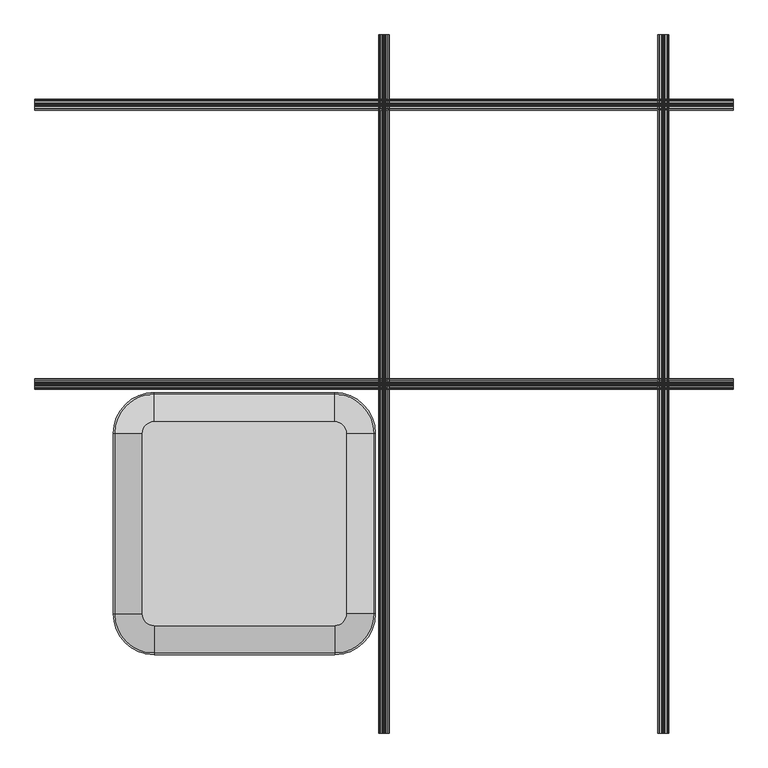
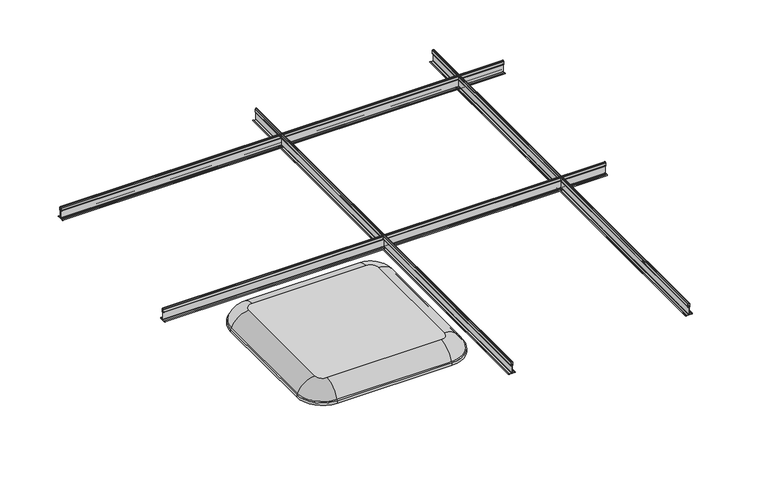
"""IFC4 building model written with IfcOpenShell, lengths in millimetres: proxy geometry, Maxxit_Concave-Ceiling_rev-01 : Maxxit_Concave-Ceiling_Solo."""

from ifc_helpers import new_model, si_unit, point, frame, frame_2d, origin, place, context, project, spatial, polyline, circle_curve, ellipse_curve, trimmed, segment, composite_curve, outline, extrude, source, transform, mapped, element, save
from ifc_brep_helpers import plane_surface, cylinder_surface, revolved_surface, advanced_brep


def generic_models_1cad4ad9(model_context):
    return source(origin(), model_context, "Body", "SolidModel", [
        advanced_brep(
        [(679.0117964, 653.4125, 44.45), (653.4125, 679.0117964, 44.45), (259.4, 679.0117964, 44.45), (233.8007036, 653.4125, 44.45), (233.8007036, 259.4, 44.45), (259.4, 233.8007036, 44.45), (653.4125, 233.8007036, 44.45), (679.0117964, 259.4, 44.45), (653.4125, 679.0117964, 34.925), (679.0117964, 653.4125, 34.925), (679.0117964, 259.4, 34.925), (653.4125, 233.8007036, 34.925), (259.4, 233.8007036, 34.925), (233.8007036, 259.4, 34.925), (233.8007036, 653.4125, 34.925), (259.4, 679.0117964, 34.925), (653.4125, 742.4125, -1.5875), (742.4125, 653.4125, -1.5875), (742.4125, 653.4125, -11.1125), (653.4125, 742.4125, -11.1125), (653.4125, 739.3934189, 0.6047619), (739.3934189, 653.4125, 0.6047619), (653.4125, 730.3361755, -2.3434524), (730.3361755, 653.4125, -2.3434524), (259.4, 742.4125, -11.1125), (259.4, 742.4125, -1.5875), (259.4, 739.3934189, 0.6047619), (259.4, 730.3361755, -2.3434524), (170.4, 653.4125, -11.1125), (170.4, 653.4125, -1.5875), (173.4190811, 653.4125, 0.6047619), (182.4763245, 653.4125, -2.3434524), (170.4, 259.4, -11.1125), (170.4, 259.4, -1.5875), (173.4190811, 259.4, 0.6047619), (182.4763245, 259.4, -2.3434524), (259.4, 170.4, -11.1125), (259.4, 170.4, -1.5875), (259.4, 173.4190811, 0.6047619), (259.4, 182.4763245, -2.3434524), (653.4125, 170.4, -11.1125), (653.4125, 170.4, -1.5875), (653.4125, 173.4190811, 0.6047619), (653.4125, 182.4763245, -2.3434524), (742.4125, 259.4, -11.1125), (742.4125, 259.4, -1.5875), (739.3934189, 259.4, 0.6047619), (730.3361755, 259.4, -2.3434524)],
        [
            (0, 1, circle_curve(frame((653.4125, 653.4125, 44.45), z_axis=(0.0, 0.0, 1.0), x_axis=(1.0, 0.0, 0.0)), 25.5992964)),
            (1, 2),
            (2, 3, circle_curve(frame((259.4, 653.4125, 44.45), z_axis=(0.0, 0.0, 1.0), x_axis=(0.0, 1.0, 0.0)), 25.5992964)),
            (3, 4),
            (4, 5, circle_curve(frame((259.4, 259.4, 44.45), z_axis=(0.0, 0.0, 1.0), x_axis=(-1.0, 0.0, 0.0)), 25.5992964)),
            (5, 6),
            (6, 7, circle_curve(frame((653.4125, 259.4, 44.45), z_axis=(0.0, 0.0, 1.0), x_axis=(0.0, -1.0, 0.0)), 25.5992964)),
            (7, 0),
            (8, 9, circle_curve(frame((653.4125, 653.4125, 34.925), z_axis=(0.0, 0.0, -1.0), x_axis=(1.0, 0.0, 0.0)), 25.5992964)),
            (9, 10),
            (10, 11, circle_curve(frame((653.4125, 259.4, 34.925), z_axis=(0.0, 0.0, -1.0), x_axis=(0.0, -1.0, 0.0)), 25.5992964)),
            (11, 12),
            (12, 13, circle_curve(frame((259.4, 259.4, 34.925), z_axis=(0.0, 0.0, -1.0), x_axis=(-1.0, 0.0, 0.0)), 25.5992964)),
            (13, 14),
            (14, 15, circle_curve(frame((259.4, 653.4125, 34.925), z_axis=(0.0, 0.0, -1.0), x_axis=(0.0, 1.0, 0.0)), 25.5992964)),
            (15, 8),
            (16, 17, circle_curve(frame((653.4125, 653.4125, -1.5875), z_axis=(0.0, 0.0, -1.0), x_axis=(1.0, 0.0, 0.0)), 89.0)),
            (17, 18),
            (18, 19, circle_curve(frame((653.4125, 653.4125, -11.1125), z_axis=(0.0, 0.0, 1.0), x_axis=(1.0, 0.0, 0.0)), 89.0)),
            (19, 16),
            (16, 20, circle_curve(frame((653.4125, 742.4125, 1.5875), z_axis=(-1.0, 0.0, 0.0), x_axis=(0.0, -1.0, 0.0)), 3.175)),
            (20, 21, circle_curve(frame((653.4125, 653.4125, 0.6047619), z_axis=(0.0, 0.0, -1.0), x_axis=(1.0, 0.0, 0.0)), 85.9809189)),
            (21, 17, circle_curve(frame((742.4125, 653.4125, 1.5875), z_axis=(0.0, -1.0, 0.0), x_axis=(-1.0, 0.0, 0.0)), 3.175)),
            (20, 1, circle_curve(frame((653.4125, 679.0117964, -19.05), z_axis=(1.0, 0.0, 0.0), x_axis=(0.0, -1.0, 0.0)), 63.5)),
            (0, 21, circle_curve(frame((679.0117964, 653.4125, -19.05), z_axis=(0.0, 1.0, 0.0), x_axis=(-1.0, 0.0, 0.0)), 63.5)),
            (22, 23, circle_curve(frame((653.4125, 653.4125, -2.3434524), z_axis=(0.0, 0.0, -1.0), x_axis=(1.0, 0.0, 0.0)), 76.9236755)),
            (23, 9, circle_curve(frame((679.0117964, 653.4125, -19.05), z_axis=(0.0, -1.0, 0.0), x_axis=(-1.0, 0.0, 0.0)), 53.975)),
            (8, 22, circle_curve(frame((653.4125, 679.0117964, -19.05), z_axis=(-1.0, 0.0, 0.0), x_axis=(0.0, -1.0, 0.0)), 53.975)),
            (18, 23, circle_curve(frame((742.4125, 653.4125, 1.5875), z_axis=(0.0, 1.0, 0.0), x_axis=(-1.0, 0.0, 0.0)), 12.7)),
            (22, 19, circle_curve(frame((653.4125, 742.4125, 1.5875), z_axis=(1.0, 0.0, 0.0), x_axis=(0.0, -1.0, 0.0)), 12.7)),
            (19, 24),
            (24, 25),
            (25, 16),
            (25, 26, circle_curve(frame((259.4, 742.4125, 1.5875), z_axis=(-1.0, 0.0, 0.0), x_axis=(0.0, -1.0, 0.0)), 3.175)),
            (26, 20),
            (26, 2, circle_curve(frame((259.4, 679.0117964, -19.05), z_axis=(1.0, 0.0, 0.0), x_axis=(0.0, -1.0, 0.0)), 63.5)),
            (15, 27, circle_curve(frame((259.4, 679.0117964, -19.05), z_axis=(-1.0, 0.0, 0.0), x_axis=(0.0, -1.0, 0.0)), 53.975)),
            (27, 22),
            (27, 24, circle_curve(frame((259.4, 742.4125, 1.5875), z_axis=(1.0, 0.0, 0.0), x_axis=(0.0, -1.0, 0.0)), 12.7)),
            (24, 28, circle_curve(frame((259.4, 653.4125, -11.1125), z_axis=(0.0, 0.0, 1.0), x_axis=(0.0, 1.0, 0.0)), 89.0)),
            (28, 29),
            (29, 25, circle_curve(frame((259.4, 653.4125, -1.5875), z_axis=(0.0, 0.0, -1.0), x_axis=(0.0, 1.0, 0.0)), 89.0)),
            (29, 30, circle_curve(frame((170.4, 653.4125, 1.5875), z_axis=(0.0, -1.0, 0.0), x_axis=(1.0, 0.0, 0.0)), 3.175)),
            (30, 26, circle_curve(frame((259.4, 653.4125, 0.6047619), z_axis=(0.0, 0.0, -1.0), x_axis=(0.0, 1.0, 0.0)), 85.9809189)),
            (30, 3, circle_curve(frame((233.8007036, 653.4125, -19.05), z_axis=(0.0, 1.0, 0.0), x_axis=(1.0, 0.0, 0.0)), 63.5)),
            (14, 31, circle_curve(frame((233.8007036, 653.4125, -19.05), z_axis=(0.0, -1.0, 0.0), x_axis=(1.0, 0.0, 0.0)), 53.975)),
            (31, 27, circle_curve(frame((259.4, 653.4125, -2.3434524), z_axis=(0.0, 0.0, -1.0), x_axis=(0.0, 1.0, 0.0)), 76.9236755)),
            (31, 28, circle_curve(frame((170.4, 653.4125, 1.5875), z_axis=(0.0, 1.0, 0.0), x_axis=(1.0, 0.0, 0.0)), 12.7)),
            (28, 32),
            (32, 33),
            (33, 29),
            (33, 34, circle_curve(frame((170.4, 259.4, 1.5875), z_axis=(0.0, -1.0, 0.0), x_axis=(1.0, 0.0, 0.0)), 3.175)),
            (34, 30),
            (34, 4, circle_curve(frame((233.8007036, 259.4, -19.05), z_axis=(0.0, 1.0, 0.0), x_axis=(1.0, 0.0, 0.0)), 63.5)),
            (13, 35, circle_curve(frame((233.8007036, 259.4, -19.05), z_axis=(0.0, -1.0, 0.0), x_axis=(1.0, 0.0, 0.0)), 53.975)),
            (35, 31),
            (35, 32, circle_curve(frame((170.4, 259.4, 1.5875), z_axis=(0.0, 1.0, 0.0), x_axis=(1.0, 0.0, 0.0)), 12.7)),
            (32, 36, circle_curve(frame((259.4, 259.4, -11.1125), z_axis=(0.0, 0.0, 1.0), x_axis=(-1.0, 0.0, 0.0)), 89.0)),
            (36, 37),
            (37, 33, circle_curve(frame((259.4, 259.4, -1.5875), z_axis=(0.0, 0.0, -1.0), x_axis=(-1.0, 0.0, 0.0)), 89.0)),
            (37, 38, circle_curve(frame((259.4, 170.4, 1.5875), z_axis=(1.0, 0.0, 0.0), x_axis=(0.0, 1.0, 0.0)), 3.175)),
            (38, 34, circle_curve(frame((259.4, 259.4, 0.6047619), z_axis=(0.0, 0.0, -1.0), x_axis=(-1.0, 0.0, 0.0)), 85.9809189)),
            (38, 5, circle_curve(frame((259.4, 233.8007036, -19.05), z_axis=(-1.0, 0.0, 0.0), x_axis=(0.0, 1.0, 0.0)), 63.5)),
            (12, 39, circle_curve(frame((259.4, 233.8007036, -19.05), z_axis=(1.0, 0.0, 0.0), x_axis=(0.0, 1.0, 0.0)), 53.975)),
            (39, 35, circle_curve(frame((259.4, 259.4, -2.3434524), z_axis=(0.0, 0.0, -1.0), x_axis=(-1.0, 0.0, 0.0)), 76.9236755)),
            (39, 36, circle_curve(frame((259.4, 170.4, 1.5875), z_axis=(-1.0, 0.0, 0.0), x_axis=(0.0, 1.0, 0.0)), 12.7)),
            (36, 40),
            (40, 41),
            (41, 37),
            (41, 42, circle_curve(frame((653.4125, 170.4, 1.5875), z_axis=(1.0, 0.0, 0.0), x_axis=(0.0, 1.0, 0.0)), 3.175)),
            (42, 38),
            (42, 6, circle_curve(frame((653.4125, 233.8007036, -19.05), z_axis=(-1.0, 0.0, 0.0), x_axis=(0.0, 1.0, 0.0)), 63.5)),
            (11, 43, circle_curve(frame((653.4125, 233.8007036, -19.05), z_axis=(1.0, 0.0, 0.0), x_axis=(0.0, 1.0, 0.0)), 53.975)),
            (43, 39),
            (43, 40, circle_curve(frame((653.4125, 170.4, 1.5875), z_axis=(-1.0, 0.0, 0.0), x_axis=(0.0, 1.0, 0.0)), 12.7)),
            (40, 44, circle_curve(frame((653.4125, 259.4, -11.1125), z_axis=(0.0, 0.0, 1.0), x_axis=(0.0, -1.0, 0.0)), 89.0)),
            (44, 45),
            (45, 41, circle_curve(frame((653.4125, 259.4, -1.5875), z_axis=(0.0, 0.0, -1.0), x_axis=(0.0, -1.0, 0.0)), 89.0)),
            (45, 46, circle_curve(frame((742.4125, 259.4, 1.5875), z_axis=(0.0, 1.0, 0.0), x_axis=(-1.0, 0.0, 0.0)), 3.175)),
            (46, 42, circle_curve(frame((653.4125, 259.4, 0.6047619), z_axis=(0.0, 0.0, -1.0), x_axis=(0.0, -1.0, 0.0)), 85.9809189)),
            (46, 7, circle_curve(frame((679.0117964, 259.4, -19.05), z_axis=(0.0, -1.0, 0.0), x_axis=(-1.0, 0.0, 0.0)), 63.5)),
            (10, 47, circle_curve(frame((679.0117964, 259.4, -19.05), z_axis=(0.0, 1.0, 0.0), x_axis=(-1.0, 0.0, 0.0)), 53.975)),
            (47, 43, circle_curve(frame((653.4125, 259.4, -2.3434524), z_axis=(0.0, 0.0, -1.0), x_axis=(0.0, -1.0, 0.0)), 76.9236755)),
            (47, 44, circle_curve(frame((742.4125, 259.4, 1.5875), z_axis=(0.0, -1.0, 0.0), x_axis=(-1.0, 0.0, 0.0)), 12.7)),
            (17, 45),
            (44, 18),
            (21, 46),
            (23, 47),
        ],
        [
            plane_surface(frame((250.0573389, 259.4, 44.45), z_axis=(0.0, 0.0, 1.0), x_axis=(0.0, -1.0, 0.0))),
            plane_surface(frame((250.0573389, 259.4, 34.925), z_axis=(0.0, 0.0, -1.0), x_axis=(0.0, 1.0, 0.0))),
            cylinder_surface(frame((653.4125, 653.4125, 25.4), z_axis=(0.0, 0.0, 1.0), x_axis=(1.0, 0.0, 0.0)), 89.0),
            revolved_surface(trimmed(ellipse_curve(frame((742.4125, 653.4125, 1.5875), z_axis=(0.0, 1.0, 0.0), x_axis=(-1.0, 0.0, 0.0)), 3.175, 3.175), [point((742.4125, 653.4125, -1.5875))], [point((739.3934189, 653.4125, 0.6047619))], True, "CARTESIAN"), (653.4125, 653.4125, 25.4), (0.0, 0.0, 1.0)),
            revolved_surface(trimmed(ellipse_curve(frame((679.0117964, 653.4125, -19.05), z_axis=(0.0, -1.0, 0.0), x_axis=(-1.0, 0.0, 0.0)), 63.5, 63.5), [point((739.3934189, 653.4125, 0.6047619))], [point((679.0117964, 653.4125, 44.45))], True, "CARTESIAN"), (653.4125, 653.4125, 25.4), (0.0, 0.0, 1.0)),
            revolved_surface(trimmed(ellipse_curve(frame((679.0117964, 653.4125, -19.05), z_axis=(0.0, 1.0, 0.0), x_axis=(-1.0, 0.0, 0.0)), 53.975, 53.975), [point((679.0117964, 653.4125, 34.925))], [point((730.3361755, 653.4125, -2.3434524))], True, "CARTESIAN"), (653.4125, 653.4125, 25.4), (0.0, 0.0, 1.0)),
            revolved_surface(trimmed(ellipse_curve(frame((742.4125, 653.4125, 1.5875), z_axis=(0.0, -1.0, 0.0), x_axis=(-1.0, 0.0, 0.0)), 12.7, 12.7), [point((730.3361755, 653.4125, -2.3434524))], [point((742.4125, 653.4125, -11.1125))], True, "CARTESIAN"), (653.4125, 653.4125, 25.4), (0.0, 0.0, 1.0)),
            plane_surface(frame((653.4125, 742.4125, -11.1125), z_axis=(0.0, 1.0, 0.0), x_axis=(-1.0, 0.0, 0.0))),
            revolved_surface(polyline([(259.4, 739.2375000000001, 1.5875), (653.4125, 739.2375000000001, 1.5875)]), (653.4125, 742.4125, 1.5875), (-1.0, 0.0, 0.0)),
            cylinder_surface(frame((653.4125, 679.0117964, -19.05), z_axis=(1.0, 0.0, 0.0), x_axis=(0.0, -1.0, 0.0)), 63.5),
            revolved_surface(polyline([(259.4, 625.0367964, -19.05), (653.4125, 625.0367964, -19.05)]), (653.4125, 679.0117964, -19.05), (-1.0, 0.0, 0.0)),
            cylinder_surface(frame((653.4125, 742.4125, 1.5875), z_axis=(1.0, 0.0, 0.0), x_axis=(0.0, -1.0, 0.0)), 12.7),
            cylinder_surface(frame((259.4, 653.4125, 25.4), z_axis=(0.0, 0.0, 1.0), x_axis=(0.0, 1.0, 0.0)), 89.0),
            revolved_surface(trimmed(ellipse_curve(frame((259.4, 742.4125, 1.5875), z_axis=(-1.0, 0.0, 0.0), x_axis=(0.0, -1.0, 0.0)), 3.175, 3.175), [point((259.4, 742.4125, -1.5875))], [point((259.4, 739.3934189, 0.6047619))], True, "CARTESIAN"), (259.4, 653.4125, 25.4), (0.0, 0.0, 1.0)),
            revolved_surface(trimmed(ellipse_curve(frame((259.4, 679.0117964, -19.05), z_axis=(1.0, 0.0, 0.0), x_axis=(0.0, -1.0, 0.0)), 63.5, 63.5), [point((259.4, 739.3934189, 0.6047619))], [point((259.4, 679.0117964, 44.45))], True, "CARTESIAN"), (259.4, 653.4125, 25.4), (0.0, 0.0, 1.0)),
            revolved_surface(trimmed(ellipse_curve(frame((259.4, 679.0117964, -19.05), z_axis=(-1.0, 0.0, 0.0), x_axis=(0.0, -1.0, 0.0)), 53.975, 53.975), [point((259.4, 679.0117964, 34.925))], [point((259.4, 730.3361755, -2.3434524))], True, "CARTESIAN"), (259.4, 653.4125, 25.4), (0.0, 0.0, 1.0)),
            revolved_surface(trimmed(ellipse_curve(frame((259.4, 742.4125, 1.5875), z_axis=(1.0, 0.0, 0.0), x_axis=(0.0, -1.0, 0.0)), 12.7, 12.7), [point((259.4, 730.3361755, -2.3434524))], [point((259.4, 742.4125, -11.1125))], True, "CARTESIAN"), (259.4, 653.4125, 25.4), (0.0, 0.0, 1.0)),
            plane_surface(frame((170.4, 653.4125, -11.1125), z_axis=(-1.0, 0.0, 0.0), x_axis=(0.0, -1.0, 0.0))),
            revolved_surface(polyline([(173.57500000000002, 259.4, 1.5875), (173.57500000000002, 653.4125, 1.5875)]), (170.4, 653.4125, 1.5875), (0.0, -1.0, 0.0)),
            cylinder_surface(frame((233.8007036, 653.4125, -19.05), z_axis=(0.0, 1.0, 0.0), x_axis=(1.0, 0.0, 0.0)), 63.5),
            revolved_surface(polyline([(287.7757036, 259.4, -19.05), (287.7757036, 653.4125, -19.05)]), (233.8007036, 653.4125, -19.05), (0.0, -1.0, 0.0)),
            cylinder_surface(frame((170.4, 653.4125, 1.5875), z_axis=(0.0, 1.0, 0.0), x_axis=(1.0, 0.0, 0.0)), 12.7),
            cylinder_surface(frame((259.4, 259.4, 25.4), z_axis=(0.0, 0.0, 1.0), x_axis=(-1.0, 0.0, 0.0)), 89.0),
            revolved_surface(trimmed(ellipse_curve(frame((170.4, 259.4, 1.5875), z_axis=(0.0, -1.0, 0.0), x_axis=(1.0, 0.0, 0.0)), 3.175, 3.175), [point((170.4, 259.4, -1.5875))], [point((173.4190811, 259.4, 0.6047619))], True, "CARTESIAN"), (259.4, 259.4, 25.4), (0.0, 0.0, 1.0)),
            revolved_surface(trimmed(ellipse_curve(frame((233.8007036, 259.4, -19.05), z_axis=(0.0, 1.0, 0.0), x_axis=(1.0, 0.0, 0.0)), 63.5, 63.5), [point((173.4190811, 259.4, 0.6047619))], [point((233.8007036, 259.4, 44.45))], True, "CARTESIAN"), (259.4, 259.4, 25.4), (0.0, 0.0, 1.0)),
            revolved_surface(trimmed(ellipse_curve(frame((233.8007036, 259.4, -19.05), z_axis=(0.0, -1.0, 0.0), x_axis=(1.0, 0.0, 0.0)), 53.975, 53.975), [point((233.8007036, 259.4, 34.925))], [point((182.4763245, 259.4, -2.3434524))], True, "CARTESIAN"), (259.4, 259.4, 25.4), (0.0, 0.0, 1.0)),
            revolved_surface(trimmed(ellipse_curve(frame((170.4, 259.4, 1.5875), z_axis=(0.0, 1.0, 0.0), x_axis=(1.0, 0.0, 0.0)), 12.7, 12.7), [point((182.4763245, 259.4, -2.3434524))], [point((170.4, 259.4, -11.1125))], True, "CARTESIAN"), (259.4, 259.4, 25.4), (0.0, 0.0, 1.0)),
            plane_surface(frame((259.4, 170.4, -11.1125), z_axis=(0.0, -1.0, 0.0), x_axis=(1.0, 0.0, 0.0))),
            revolved_surface(polyline([(653.4125, 173.57500000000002, 1.5875), (259.4, 173.57500000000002, 1.5875)]), (259.4, 170.4, 1.5875), (1.0, 0.0, 0.0)),
            cylinder_surface(frame((259.4, 233.8007036, -19.05), z_axis=(-1.0, 0.0, 0.0), x_axis=(0.0, 1.0, 0.0)), 63.5),
            revolved_surface(polyline([(653.4125, 287.7757036, -19.05), (259.4, 287.7757036, -19.05)]), (259.4, 233.8007036, -19.05), (1.0, 0.0, 0.0)),
            cylinder_surface(frame((259.4, 170.4, 1.5875), z_axis=(-1.0, 0.0, 0.0), x_axis=(0.0, 1.0, 0.0)), 12.7),
            cylinder_surface(frame((653.4125, 259.4, 25.4), z_axis=(0.0, 0.0, 1.0), x_axis=(0.0, -1.0, 0.0)), 89.0),
            revolved_surface(trimmed(ellipse_curve(frame((653.4125, 170.4, 1.5875), z_axis=(1.0, 0.0, 0.0), x_axis=(0.0, 1.0, 0.0)), 3.175, 3.175), [point((653.4125, 170.4, -1.5875))], [point((653.4125, 173.4190811, 0.6047619))], True, "CARTESIAN"), (653.4125, 259.4, 25.4), (0.0, 0.0, 1.0)),
            revolved_surface(trimmed(ellipse_curve(frame((653.4125, 233.8007036, -19.05), z_axis=(-1.0, 0.0, 0.0), x_axis=(0.0, 1.0, 0.0)), 63.5, 63.5), [point((653.4125, 173.4190811, 0.6047619))], [point((653.4125, 233.8007036, 44.45))], True, "CARTESIAN"), (653.4125, 259.4, 25.4), (0.0, 0.0, 1.0)),
            revolved_surface(trimmed(ellipse_curve(frame((653.4125, 233.8007036, -19.05), z_axis=(1.0, 0.0, 0.0), x_axis=(0.0, 1.0, 0.0)), 53.975, 53.975), [point((653.4125, 233.8007036, 34.925))], [point((653.4125, 182.4763245, -2.3434524))], True, "CARTESIAN"), (653.4125, 259.4, 25.4), (0.0, 0.0, 1.0)),
            revolved_surface(trimmed(ellipse_curve(frame((653.4125, 170.4, 1.5875), z_axis=(-1.0, 0.0, 0.0), x_axis=(0.0, 1.0, 0.0)), 12.7, 12.7), [point((653.4125, 182.4763245, -2.3434524))], [point((653.4125, 170.4, -11.1125))], True, "CARTESIAN"), (653.4125, 259.4, 25.4), (0.0, 0.0, 1.0)),
            plane_surface(frame((742.4125, 259.4, -11.1125), z_axis=(1.0, 0.0, 0.0), x_axis=(0.0, 1.0, 0.0))),
            revolved_surface(polyline([(739.2375000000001, 653.4125, 1.5875), (739.2375000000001, 259.4, 1.5875)]), (742.4125, 259.4, 1.5875), (0.0, 1.0, 0.0)),
            cylinder_surface(frame((679.0117964, 259.4, -19.05), z_axis=(0.0, -1.0, 0.0), x_axis=(-1.0, 0.0, 0.0)), 63.5),
            revolved_surface(polyline([(625.0367964, 653.4125, -19.05), (625.0367964, 259.4, -19.05)]), (679.0117964, 259.4, -19.05), (0.0, 1.0, 0.0)),
            cylinder_surface(frame((742.4125, 259.4, 1.5875), z_axis=(0.0, -1.0, 0.0), x_axis=(-1.0, 0.0, 0.0)), 12.7),
        ],
        [
            (0, [[1, 2, 3, 4, 5, 6, 7, 8]]),
            (1, [[9, 10, 11, 12, 13, 14, 15, 16]]),
            (2, [[17, 18, 19, 20]]),
            (3, [[-17, 21, 22, 23]]),
            (4, [[-22, 24, -1, 25]]),
            (5, [[26, 27, -9, 28]]),
            (6, [[-19, 29, -26, 30]]),
            (7, [[-20, 31, 32, 33]]),
            (8, [[-21, -33, 34, 35]]),
            (9, [[-24, -35, 36, -2]]),
            (10, [[-28, -16, 37, 38]]),
            (11, [[-30, -38, 39, -31]]),
            (12, [[-32, 40, 41, 42]]),
            (13, [[-34, -42, 43, 44]]),
            (14, [[-36, -44, 45, -3]]),
            (15, [[-37, -15, 46, 47]]),
            (16, [[-39, -47, 48, -40]]),
            (17, [[-41, 49, 50, 51]]),
            (18, [[-43, -51, 52, 53]]),
            (19, [[-45, -53, 54, -4]]),
            (20, [[-46, -14, 55, 56]]),
            (21, [[-48, -56, 57, -49]]),
            (22, [[-50, 58, 59, 60]]),
            (23, [[-52, -60, 61, 62]]),
            (24, [[-54, -62, 63, -5]]),
            (25, [[-55, -13, 64, 65]]),
            (26, [[-57, -65, 66, -58]]),
            (27, [[-59, 67, 68, 69]]),
            (28, [[-61, -69, 70, 71]]),
            (29, [[-63, -71, 72, -6]]),
            (30, [[-64, -12, 73, 74]]),
            (31, [[-66, -74, 75, -67]]),
            (32, [[-68, 76, 77, 78]]),
            (33, [[-70, -78, 79, 80]]),
            (34, [[-72, -80, 81, -7]]),
            (35, [[-73, -11, 82, 83]]),
            (36, [[-75, -83, 84, -76]]),
            (37, [[-18, 85, -77, 86]]),
            (38, [[-23, 87, -79, -85]]),
            (39, [[-25, -8, -81, -87]]),
            (40, [[-27, 88, -82, -10]]),
            (41, [[-29, -86, -84, -88]]),
        ],
    ),
        extrude(outline(composite_curve([segment(polyline([(26.3453115, 1371.9521622), (26.0364605, 1380.3221882), (27.0486923, 1380.3221882), (27.0486923, 1372.5587813)]), True, "CONTINUOUS"), segment(trimmed(circle_curve(frame_2d((28.0053766, 1372.5587813)), 0.9566843), [point((27.0486923, 1372.5587813))], [point((28.0053766, 1371.602097))], True, "CARTESIAN"), True, "CONTINUOUS"), segment(polyline([(28.0053766, 1371.602097), (53.7729211, 1371.602097)]), True, "CONTINUOUS"), segment(trimmed(circle_curve(frame_2d((53.6130577, 1372.3289444)), 0.74422), [point((53.7729211, 1371.602097))], [point((54.356, 1372.2853536))], True, "CARTESIAN"), True, "CONTINUOUS"), segment(trimmed(circle_curve(frame_2d((58.371716, 1372.5444703)), 4.0240672), [point((54.356, 1372.2853536))], [point((54.4068054, 1373.2319295))], False, "CARTESIAN"), True, "CONTINUOUS"), segment(trimmed(circle_curve(frame_2d((55.7865501, 1372.874174)), 1.4253717), [point((54.4068054, 1373.2319295))], [point((55.7865501, 1374.2995457))], False, "CARTESIAN"), True, "CONTINUOUS"), segment(polyline([(55.7865501, 1374.2995457), (64.7585942, 1374.2995457)]), True, "CONTINUOUS"), segment(trimmed(circle_curve(frame_2d((64.8150812, 1372.2494608)), 2.0508629), [point((64.7585942, 1374.2995457))], [point((66.2652603, 1373.6996399))], False, "CARTESIAN"), True, "CONTINUOUS"), segment(polyline([(66.2652603, 1373.6996399), (68.1708325, 1371.7940677)]), True, "CONTINUOUS"), segment(trimmed(circle_curve(frame_2d((67.1830148, 1370.80625)), 1.3969852), [point((68.1708325, 1371.7940677))], [point((68.1708325, 1369.8184323))], False, "CARTESIAN"), True, "CONTINUOUS"), segment(polyline([(68.1708325, 1369.8184323), (66.2652603, 1367.9128601)]), True, "CONTINUOUS"), segment(trimmed(circle_curve(frame_2d((64.8150812, 1369.3630392)), 2.0508629), [point((66.2652603, 1367.9128601))], [point((64.7585942, 1367.3129543))], False, "CARTESIAN"), True, "CONTINUOUS"), segment(polyline([(64.7585942, 1367.3129543), (55.7865501, 1367.3129543)]), True, "CONTINUOUS"), segment(trimmed(circle_curve(frame_2d((55.7865501, 1368.738326)), 1.4253717), [point((55.7865501, 1367.3129543))], [point((54.4068054, 1368.3805705))], False, "CARTESIAN"), True, "CONTINUOUS"), segment(trimmed(circle_curve(frame_2d((58.371716, 1369.0680297)), 4.0240672), [point((54.4068054, 1368.3805705))], [point((54.356, 1369.3271464))], False, "CARTESIAN"), True, "CONTINUOUS"), segment(trimmed(circle_curve(frame_2d((53.6130577, 1369.2835556)), 0.74422), [point((54.356, 1369.3271464))], [point((53.7436541, 1370.0162274))], True, "CARTESIAN"), True, "CONTINUOUS"), segment(polyline([(53.7436541, 1370.0162274), (28.0053766, 1370.0162274)]), True, "CONTINUOUS"), segment(trimmed(circle_curve(frame_2d((28.0053766, 1369.0595431)), 0.9566843), [point((28.0053766, 1370.0162274))], [point((27.0486923, 1369.0595431))], True, "CARTESIAN"), True, "CONTINUOUS"), segment(polyline([(27.0486923, 1369.0595431), (27.0486923, 1360.4632271), (26.0290179, 1360.4632271), (26.3453115, 1369.6661622)]), True, "CONTINUOUS"), segment(trimmed(circle_curve(frame_2d((27.4883115, 1369.6661622)), 1.143), [point((26.3453115, 1369.6661622))], [point((27.4883115, 1370.8091622))], False, "CARTESIAN"), True, "CONTINUOUS"), segment(trimmed(circle_curve(frame_2d((27.4883115, 1371.9521622)), 1.143), [point((27.4883115, 1370.8091622))], [point((26.3453115, 1371.9521622))], False, "CARTESIAN"), True, "CONTINUOUS")], self_intersect=False), holes=[composite_curve([segment(trimmed(circle_curve(frame_2d((54.058724, 1369.7366423)), 1.0922), [point((54.2797221, 1370.80625))], [point((55.150924, 1369.7366423))], False, "CARTESIAN"), True, "CONTINUOUS"), segment(polyline([(55.150924, 1369.7366423), (55.150924, 1368.7462215)]), True, "CONTINUOUS"), segment(trimmed(circle_curve(frame_2d((55.7859245, 1368.7462215)), 0.6350005), [point((55.150924, 1368.7462215))], [point((55.7859245, 1368.111221))], True, "CARTESIAN"), True, "CONTINUOUS"), segment(polyline([(55.7859245, 1368.111221), (64.7585942, 1368.111221)]), True, "CONTINUOUS"), segment(trimmed(circle_curve(frame_2d((64.7240599, 1369.6140641)), 1.5032399), [point((64.7585942, 1368.111221))], [point((65.7039943, 1368.4741261))], True, "CARTESIAN"), True, "CONTINUOUS"), segment(polyline([(65.7039943, 1368.4741261), (67.6095665, 1370.3796983)]), True, "CONTINUOUS"), segment(trimmed(circle_curve(frame_2d((67.1830148, 1370.80625)), 0.6032352), [point((67.6095665, 1370.3796983))], [point((67.6095665, 1371.2328017))], True, "CARTESIAN"), True, "CONTINUOUS"), segment(polyline([(67.6095665, 1371.2328017), (65.7039943, 1373.1383739)]), True, "CONTINUOUS"), segment(trimmed(circle_curve(frame_2d((64.7240599, 1371.9984359)), 1.5032399), [point((65.7039943, 1373.1383739))], [point((64.7585942, 1373.501279))], True, "CARTESIAN"), True, "CONTINUOUS"), segment(polyline([(64.7585942, 1373.501279), (55.7859245, 1373.501279)]), True, "CONTINUOUS"), segment(trimmed(circle_curve(frame_2d((55.7859245, 1372.8662785)), 0.6350005), [point((55.7859245, 1373.501279))], [point((55.150924, 1372.8662785))], True, "CARTESIAN"), True, "CONTINUOUS"), segment(polyline([(55.150924, 1372.8662785), (55.150924, 1371.8758577)]), True, "CONTINUOUS"), segment(trimmed(circle_curve(frame_2d((54.058724, 1371.8758577)), 1.0922), [point((55.150924, 1371.8758577))], [point((54.2797221, 1370.80625))], False, "CARTESIAN"), True, "CONTINUOUS")], self_intersect=False)]), frame((0.0, -0.79375, 0.0), z_axis=(0.0, 1.0, 0.0), x_axis=(0.0, 0.0, 1.0)), (0.0, 0.0, 1.0), 1524.0),
        extrude(outline(composite_curve([segment(trimmed(circle_curve(frame_2d((26.8823557, 1381.2419885)), 1.4823557), [point((25.4, 1381.2419885))], [point((28.3175237, 1380.8709475))], False, "CARTESIAN"), True, "CONTINUOUS"), segment(polyline([(28.3175237, 1380.8709475), (27.887022, 1379.3447705), (27.123083, 1379.5602613), (27.550773, 1381.0764703)]), True, "CONTINUOUS"), segment(trimmed(circle_curve(frame_2d((26.8823557, 1381.2419885)), 0.6886057), [point((27.550773, 1381.0764703))], [point((26.19375, 1381.2419885))], True, "CARTESIAN"), True, "CONTINUOUS"), segment(polyline([(26.19375, 1381.2419885), (26.19375, 1360.3705115)]), True, "CONTINUOUS"), segment(trimmed(circle_curve(frame_2d((26.8823557, 1360.3705115)), 0.6886057), [point((26.19375, 1360.3705115))], [point((27.550773, 1360.5360297))], True, "CARTESIAN"), True, "CONTINUOUS"), segment(polyline([(27.550773, 1360.5360297), (27.123083, 1362.0522387), (27.887022, 1362.2677295), (28.3175237, 1360.7415525)]), True, "CONTINUOUS"), segment(trimmed(circle_curve(frame_2d((26.8823557, 1360.3705115)), 1.4823557), [point((28.3175237, 1360.7415525))], [point((25.4, 1360.3705115))], False, "CARTESIAN"), True, "CONTINUOUS"), segment(polyline([(25.4, 1360.3705115), (25.4, 1381.2419885)]), True, "CONTINUOUS")], self_intersect=False)), frame((0.0, -0.79375, 0.0), z_axis=(0.0, 1.0, 0.0), x_axis=(0.0, 0.0, 1.0)), (0.0, 0.0, 1.0), 1524.0),
        extrude(outline(composite_curve([segment(trimmed(circle_curve(frame_2d((1371.9521622, 27.4883115)), 1.143), [point((1371.9521622, 26.3453115))], [point((1370.8091622, 27.4883115))], False, "CARTESIAN"), True, "CONTINUOUS"), segment(trimmed(circle_curve(frame_2d((1369.6661622, 27.4883115)), 1.143), [point((1370.8091622, 27.4883115))], [point((1369.6661622, 26.3453115))], False, "CARTESIAN"), True, "CONTINUOUS"), segment(polyline([(1369.6661622, 26.3453115), (1360.4632271, 26.0290179), (1360.4632271, 27.0486923), (1369.0595431, 27.0486923)]), True, "CONTINUOUS"), segment(trimmed(circle_curve(frame_2d((1369.0595431, 28.0053766)), 0.9566843), [point((1369.0595431, 27.0486923))], [point((1370.0162274, 28.0053766))], True, "CARTESIAN"), True, "CONTINUOUS"), segment(polyline([(1370.0162274, 28.0053766), (1370.0162274, 53.7436541)]), True, "CONTINUOUS"), segment(trimmed(circle_curve(frame_2d((1369.2835556, 53.6130577)), 0.74422), [point((1370.0162274, 53.7436541))], [point((1369.3271464, 54.356))], True, "CARTESIAN"), True, "CONTINUOUS"), segment(trimmed(circle_curve(frame_2d((1369.0680297, 58.371716)), 4.0240672), [point((1369.3271464, 54.356))], [point((1368.3805705, 54.4068054))], False, "CARTESIAN"), True, "CONTINUOUS"), segment(trimmed(circle_curve(frame_2d((1368.738326, 55.7865501)), 1.4253717), [point((1368.3805705, 54.4068054))], [point((1367.3129543, 55.7865501))], False, "CARTESIAN"), True, "CONTINUOUS"), segment(polyline([(1367.3129543, 55.7865501), (1367.3129543, 64.7585942)]), True, "CONTINUOUS"), segment(trimmed(circle_curve(frame_2d((1369.3630392, 64.8150812)), 2.0508629), [point((1367.3129543, 64.7585942))], [point((1367.9128601, 66.2652603))], False, "CARTESIAN"), True, "CONTINUOUS"), segment(polyline([(1367.9128601, 66.2652603), (1369.8184323, 68.1708325)]), True, "CONTINUOUS"), segment(trimmed(circle_curve(frame_2d((1370.80625, 67.1830148)), 1.3969852), [point((1369.8184323, 68.1708325))], [point((1371.7940677, 68.1708325))], False, "CARTESIAN"), True, "CONTINUOUS"), segment(polyline([(1371.7940677, 68.1708325), (1373.6996399, 66.2652603)]), True, "CONTINUOUS"), segment(trimmed(circle_curve(frame_2d((1372.2494608, 64.8150812)), 2.0508629), [point((1373.6996399, 66.2652603))], [point((1374.2995457, 64.7585942))], False, "CARTESIAN"), True, "CONTINUOUS"), segment(polyline([(1374.2995457, 64.7585942), (1374.2995457, 55.7865501)]), True, "CONTINUOUS"), segment(trimmed(circle_curve(frame_2d((1372.874174, 55.7865501)), 1.4253717), [point((1374.2995457, 55.7865501))], [point((1373.2319295, 54.4068054))], False, "CARTESIAN"), True, "CONTINUOUS"), segment(trimmed(circle_curve(frame_2d((1372.5444703, 58.371716)), 4.0240672), [point((1373.2319295, 54.4068054))], [point((1372.2853536, 54.356))], False, "CARTESIAN"), True, "CONTINUOUS"), segment(trimmed(circle_curve(frame_2d((1372.3289444, 53.6130577)), 0.74422), [point((1372.2853536, 54.356))], [point((1371.602097, 53.7729211))], True, "CARTESIAN"), True, "CONTINUOUS"), segment(polyline([(1371.602097, 53.7729211), (1371.602097, 28.0053766)]), True, "CONTINUOUS"), segment(trimmed(circle_curve(frame_2d((1372.5587813, 28.0053766)), 0.9566843), [point((1371.602097, 28.0053766))], [point((1372.5587813, 27.0486923))], True, "CARTESIAN"), True, "CONTINUOUS"), segment(polyline([(1372.5587813, 27.0486923), (1380.3221882, 27.0486923), (1380.3221882, 26.0364605), (1371.9521622, 26.3453115)]), True, "CONTINUOUS")], self_intersect=False), holes=[composite_curve([segment(trimmed(circle_curve(frame_2d((1371.8758577, 54.058724)), 1.0922), [point((1370.80625, 54.2797221))], [point((1371.8758577, 55.150924))], False, "CARTESIAN"), True, "CONTINUOUS"), segment(polyline([(1371.8758577, 55.150924), (1372.8662785, 55.150924)]), True, "CONTINUOUS"), segment(trimmed(circle_curve(frame_2d((1372.8662785, 55.7859245)), 0.6350005), [point((1372.8662785, 55.150924))], [point((1373.501279, 55.7859245))], True, "CARTESIAN"), True, "CONTINUOUS"), segment(polyline([(1373.501279, 55.7859245), (1373.501279, 64.7585942)]), True, "CONTINUOUS"), segment(trimmed(circle_curve(frame_2d((1371.9984359, 64.7240599)), 1.5032399), [point((1373.501279, 64.7585942))], [point((1373.1383739, 65.7039943))], True, "CARTESIAN"), True, "CONTINUOUS"), segment(polyline([(1373.1383739, 65.7039943), (1371.2328017, 67.6095665)]), True, "CONTINUOUS"), segment(trimmed(circle_curve(frame_2d((1370.80625, 67.1830148)), 0.6032352), [point((1371.2328017, 67.6095665))], [point((1370.3796983, 67.6095665))], True, "CARTESIAN"), True, "CONTINUOUS"), segment(polyline([(1370.3796983, 67.6095665), (1368.4741261, 65.7039943)]), True, "CONTINUOUS"), segment(trimmed(circle_curve(frame_2d((1369.6140641, 64.7240599)), 1.5032399), [point((1368.4741261, 65.7039943))], [point((1368.111221, 64.7585942))], True, "CARTESIAN"), True, "CONTINUOUS"), segment(polyline([(1368.111221, 64.7585942), (1368.111221, 55.7859245)]), True, "CONTINUOUS"), segment(trimmed(circle_curve(frame_2d((1368.7462215, 55.7859245)), 0.6350005), [point((1368.111221, 55.7859245))], [point((1368.7462215, 55.150924))], True, "CARTESIAN"), True, "CONTINUOUS"), segment(polyline([(1368.7462215, 55.150924), (1369.7366423, 55.150924)]), True, "CONTINUOUS"), segment(trimmed(circle_curve(frame_2d((1369.7366423, 54.058724)), 1.0922), [point((1369.7366423, 55.150924))], [point((1370.80625, 54.2797221))], False, "CARTESIAN"), True, "CONTINUOUS")], self_intersect=False)]), frame((-0.79375, 0.0, 0.0), z_axis=(1.0, 0.0, 0.0), x_axis=(0.0, 1.0, 0.0)), (0.0, 0.0, 1.0), 1524.0),
        extrude(outline(composite_curve([segment(polyline([(1381.2419885, 25.4), (1360.3705115, 25.4)]), True, "CONTINUOUS"), segment(trimmed(circle_curve(frame_2d((1360.3705115, 26.8823557)), 1.4823557), [point((1360.3705115, 25.4))], [point((1360.7415525, 28.3175237))], False, "CARTESIAN"), True, "CONTINUOUS"), segment(polyline([(1360.7415525, 28.3175237), (1362.2677295, 27.887022), (1362.0522387, 27.123083), (1360.5360297, 27.550773)]), True, "CONTINUOUS"), segment(trimmed(circle_curve(frame_2d((1360.3705115, 26.8823557)), 0.6886057), [point((1360.5360297, 27.550773))], [point((1360.3705115, 26.19375))], True, "CARTESIAN"), True, "CONTINUOUS"), segment(polyline([(1360.3705115, 26.19375), (1381.2419885, 26.19375)]), True, "CONTINUOUS"), segment(trimmed(circle_curve(frame_2d((1381.2419885, 26.8823557)), 0.6886057), [point((1381.2419885, 26.19375))], [point((1381.0764703, 27.550773))], True, "CARTESIAN"), True, "CONTINUOUS"), segment(polyline([(1381.0764703, 27.550773), (1379.5602613, 27.123083), (1379.3447705, 27.887022), (1380.8709475, 28.3175237)]), True, "CONTINUOUS"), segment(trimmed(circle_curve(frame_2d((1381.2419885, 26.8823557)), 1.4823557), [point((1380.8709475, 28.3175237))], [point((1381.2419885, 25.4))], False, "CARTESIAN"), True, "CONTINUOUS")], self_intersect=False)), frame((-0.79375, 0.0, 0.0), z_axis=(1.0, 0.0, 0.0), x_axis=(0.0, 1.0, 0.0)), (0.0, 0.0, 1.0), 1524.0),
        extrude(outline(composite_curve([segment(polyline([(26.3453115, 762.3521622), (26.0364605, 770.7221882), (27.0486923, 770.7221882), (27.0486923, 762.9587813)]), True, "CONTINUOUS"), segment(trimmed(circle_curve(frame_2d((28.0053766, 762.9587813)), 0.9566843), [point((27.0486923, 762.9587813))], [point((28.0053766, 762.002097))], True, "CARTESIAN"), True, "CONTINUOUS"), segment(polyline([(28.0053766, 762.002097), (53.7729211, 762.002097)]), True, "CONTINUOUS"), segment(trimmed(circle_curve(frame_2d((53.6130577, 762.7289444)), 0.74422), [point((53.7729211, 762.002097))], [point((54.356, 762.6853536))], True, "CARTESIAN"), True, "CONTINUOUS"), segment(trimmed(circle_curve(frame_2d((58.371716, 762.9444703)), 4.0240672), [point((54.356, 762.6853536))], [point((54.4068054, 763.6319295))], False, "CARTESIAN"), True, "CONTINUOUS"), segment(trimmed(circle_curve(frame_2d((55.7865501, 763.274174)), 1.4253717), [point((54.4068054, 763.6319295))], [point((55.7865501, 764.6995457))], False, "CARTESIAN"), True, "CONTINUOUS"), segment(polyline([(55.7865501, 764.6995457), (64.7585942, 764.6995457)]), True, "CONTINUOUS"), segment(trimmed(circle_curve(frame_2d((64.8150812, 762.6494608)), 2.0508629), [point((64.7585942, 764.6995457))], [point((66.2652603, 764.0996399))], False, "CARTESIAN"), True, "CONTINUOUS"), segment(polyline([(66.2652603, 764.0996399), (68.1708325, 762.1940677)]), True, "CONTINUOUS"), segment(trimmed(circle_curve(frame_2d((67.1830148, 761.20625)), 1.3969852), [point((68.1708325, 762.1940677))], [point((68.1708325, 760.2184323))], False, "CARTESIAN"), True, "CONTINUOUS"), segment(polyline([(68.1708325, 760.2184323), (66.2652603, 758.3128601)]), True, "CONTINUOUS"), segment(trimmed(circle_curve(frame_2d((64.8150812, 759.7630392)), 2.0508629), [point((66.2652603, 758.3128601))], [point((64.7585942, 757.7129543))], False, "CARTESIAN"), True, "CONTINUOUS"), segment(polyline([(64.7585942, 757.7129543), (55.7865501, 757.7129543)]), True, "CONTINUOUS"), segment(trimmed(circle_curve(frame_2d((55.7865501, 759.138326)), 1.4253717), [point((55.7865501, 757.7129543))], [point((54.4068054, 758.7805705))], False, "CARTESIAN"), True, "CONTINUOUS"), segment(trimmed(circle_curve(frame_2d((58.371716, 759.4680297)), 4.0240672), [point((54.4068054, 758.7805705))], [point((54.356, 759.7271464))], False, "CARTESIAN"), True, "CONTINUOUS"), segment(trimmed(circle_curve(frame_2d((53.6130577, 759.6835556)), 0.74422), [point((54.356, 759.7271464))], [point((53.7436541, 760.4162274))], True, "CARTESIAN"), True, "CONTINUOUS"), segment(polyline([(53.7436541, 760.4162274), (28.0053766, 760.4162274)]), True, "CONTINUOUS"), segment(trimmed(circle_curve(frame_2d((28.0053766, 759.4595431)), 0.9566843), [point((28.0053766, 760.4162274))], [point((27.0486923, 759.4595431))], True, "CARTESIAN"), True, "CONTINUOUS"), segment(polyline([(27.0486923, 759.4595431), (27.0486923, 750.8632271), (26.0290179, 750.8632271), (26.3453115, 760.0661622)]), True, "CONTINUOUS"), segment(trimmed(circle_curve(frame_2d((27.4883115, 760.0661622)), 1.143), [point((26.3453115, 760.0661622))], [point((27.4883115, 761.2091622))], False, "CARTESIAN"), True, "CONTINUOUS"), segment(trimmed(circle_curve(frame_2d((27.4883115, 762.3521622)), 1.143), [point((27.4883115, 761.2091622))], [point((26.3453115, 762.3521622))], False, "CARTESIAN"), True, "CONTINUOUS")], self_intersect=False), holes=[composite_curve([segment(trimmed(circle_curve(frame_2d((54.058724, 760.1366423)), 1.0922), [point((54.2797221, 761.20625))], [point((55.150924, 760.1366423))], False, "CARTESIAN"), True, "CONTINUOUS"), segment(polyline([(55.150924, 760.1366423), (55.150924, 759.1462215)]), True, "CONTINUOUS"), segment(trimmed(circle_curve(frame_2d((55.7859245, 759.1462215)), 0.6350005), [point((55.150924, 759.1462215))], [point((55.7859245, 758.511221))], True, "CARTESIAN"), True, "CONTINUOUS"), segment(polyline([(55.7859245, 758.511221), (64.7585942, 758.511221)]), True, "CONTINUOUS"), segment(trimmed(circle_curve(frame_2d((64.7240599, 760.0140641)), 1.5032399), [point((64.7585942, 758.511221))], [point((65.7039943, 758.8741261))], True, "CARTESIAN"), True, "CONTINUOUS"), segment(polyline([(65.7039943, 758.8741261), (67.6095665, 760.7796983)]), True, "CONTINUOUS"), segment(trimmed(circle_curve(frame_2d((67.1830148, 761.20625)), 0.6032352), [point((67.6095665, 760.7796983))], [point((67.6095665, 761.6328017))], True, "CARTESIAN"), True, "CONTINUOUS"), segment(polyline([(67.6095665, 761.6328017), (65.7039943, 763.5383739)]), True, "CONTINUOUS"), segment(trimmed(circle_curve(frame_2d((64.7240599, 762.3984359)), 1.5032399), [point((65.7039943, 763.5383739))], [point((64.7585942, 763.901279))], True, "CARTESIAN"), True, "CONTINUOUS"), segment(polyline([(64.7585942, 763.901279), (55.7859245, 763.901279)]), True, "CONTINUOUS"), segment(trimmed(circle_curve(frame_2d((55.7859245, 763.2662785)), 0.6350005), [point((55.7859245, 763.901279))], [point((55.150924, 763.2662785))], True, "CARTESIAN"), True, "CONTINUOUS"), segment(polyline([(55.150924, 763.2662785), (55.150924, 762.2758577)]), True, "CONTINUOUS"), segment(trimmed(circle_curve(frame_2d((54.058724, 762.2758577)), 1.0922), [point((55.150924, 762.2758577))], [point((54.2797221, 761.20625))], False, "CARTESIAN"), True, "CONTINUOUS")], self_intersect=False)]), frame((0.0, -0.79375, 0.0), z_axis=(0.0, 1.0, 0.0), x_axis=(0.0, 0.0, 1.0)), (0.0, 0.0, 1.0), 1524.0),
        extrude(outline(composite_curve([segment(trimmed(circle_curve(frame_2d((26.8823557, 771.6419885)), 1.4823557), [point((25.4, 771.6419885))], [point((28.3175237, 771.2709475))], False, "CARTESIAN"), True, "CONTINUOUS"), segment(polyline([(28.3175237, 771.2709475), (27.887022, 769.7447705), (27.123083, 769.9602613), (27.550773, 771.4764703)]), True, "CONTINUOUS"), segment(trimmed(circle_curve(frame_2d((26.8823557, 771.6419885)), 0.6886057), [point((27.550773, 771.4764703))], [point((26.19375, 771.6419885))], True, "CARTESIAN"), True, "CONTINUOUS"), segment(polyline([(26.19375, 771.6419885), (26.19375, 750.7705115)]), True, "CONTINUOUS"), segment(trimmed(circle_curve(frame_2d((26.8823557, 750.7705115)), 0.6886057), [point((26.19375, 750.7705115))], [point((27.550773, 750.9360297))], True, "CARTESIAN"), True, "CONTINUOUS"), segment(polyline([(27.550773, 750.9360297), (27.123083, 752.4522387), (27.887022, 752.6677295), (28.3175237, 751.1415525)]), True, "CONTINUOUS"), segment(trimmed(circle_curve(frame_2d((26.8823557, 750.7705115)), 1.4823557), [point((28.3175237, 751.1415525))], [point((25.4, 750.7705115))], False, "CARTESIAN"), True, "CONTINUOUS"), segment(polyline([(25.4, 750.7705115), (25.4, 771.6419885)]), True, "CONTINUOUS")], self_intersect=False)), frame((0.0, -0.79375, 0.0), z_axis=(0.0, 1.0, 0.0), x_axis=(0.0, 0.0, 1.0)), (0.0, 0.0, 1.0), 1524.0),
        extrude(outline(composite_curve([segment(trimmed(circle_curve(frame_2d((762.3521622, 27.4883115)), 1.143), [point((762.3521622, 26.3453115))], [point((761.2091622, 27.4883115))], False, "CARTESIAN"), True, "CONTINUOUS"), segment(trimmed(circle_curve(frame_2d((760.0661622, 27.4883115)), 1.143), [point((761.2091622, 27.4883115))], [point((760.0661622, 26.3453115))], False, "CARTESIAN"), True, "CONTINUOUS"), segment(polyline([(760.0661622, 26.3453115), (750.8632271, 26.0290179), (750.8632271, 27.0486923), (759.4595431, 27.0486923)]), True, "CONTINUOUS"), segment(trimmed(circle_curve(frame_2d((759.4595431, 28.0053766)), 0.9566843), [point((759.4595431, 27.0486923))], [point((760.4162274, 28.0053766))], True, "CARTESIAN"), True, "CONTINUOUS"), segment(polyline([(760.4162274, 28.0053766), (760.4162274, 53.7436541)]), True, "CONTINUOUS"), segment(trimmed(circle_curve(frame_2d((759.6835556, 53.6130577)), 0.74422), [point((760.4162274, 53.7436541))], [point((759.7271464, 54.356))], True, "CARTESIAN"), True, "CONTINUOUS"), segment(trimmed(circle_curve(frame_2d((759.4680297, 58.371716)), 4.0240672), [point((759.7271464, 54.356))], [point((758.7805705, 54.4068054))], False, "CARTESIAN"), True, "CONTINUOUS"), segment(trimmed(circle_curve(frame_2d((759.138326, 55.7865501)), 1.4253717), [point((758.7805705, 54.4068054))], [point((757.7129543, 55.7865501))], False, "CARTESIAN"), True, "CONTINUOUS"), segment(polyline([(757.7129543, 55.7865501), (757.7129543, 64.7585942)]), True, "CONTINUOUS"), segment(trimmed(circle_curve(frame_2d((759.7630392, 64.8150812)), 2.0508629), [point((757.7129543, 64.7585942))], [point((758.3128601, 66.2652603))], False, "CARTESIAN"), True, "CONTINUOUS"), segment(polyline([(758.3128601, 66.2652603), (760.2184323, 68.1708325)]), True, "CONTINUOUS"), segment(trimmed(circle_curve(frame_2d((761.20625, 67.1830148)), 1.3969852), [point((760.2184323, 68.1708325))], [point((762.1940677, 68.1708325))], False, "CARTESIAN"), True, "CONTINUOUS"), segment(polyline([(762.1940677, 68.1708325), (764.0996399, 66.2652603)]), True, "CONTINUOUS"), segment(trimmed(circle_curve(frame_2d((762.6494608, 64.8150812)), 2.0508629), [point((764.0996399, 66.2652603))], [point((764.6995457, 64.7585942))], False, "CARTESIAN"), True, "CONTINUOUS"), segment(polyline([(764.6995457, 64.7585942), (764.6995457, 55.7865501)]), True, "CONTINUOUS"), segment(trimmed(circle_curve(frame_2d((763.274174, 55.7865501)), 1.4253717), [point((764.6995457, 55.7865501))], [point((763.6319295, 54.4068054))], False, "CARTESIAN"), True, "CONTINUOUS"), segment(trimmed(circle_curve(frame_2d((762.9444703, 58.371716)), 4.0240672), [point((763.6319295, 54.4068054))], [point((762.6853536, 54.356))], False, "CARTESIAN"), True, "CONTINUOUS"), segment(trimmed(circle_curve(frame_2d((762.7289444, 53.6130577)), 0.74422), [point((762.6853536, 54.356))], [point((762.002097, 53.7729211))], True, "CARTESIAN"), True, "CONTINUOUS"), segment(polyline([(762.002097, 53.7729211), (762.002097, 28.0053766)]), True, "CONTINUOUS"), segment(trimmed(circle_curve(frame_2d((762.9587813, 28.0053766)), 0.9566843), [point((762.002097, 28.0053766))], [point((762.9587813, 27.0486923))], True, "CARTESIAN"), True, "CONTINUOUS"), segment(polyline([(762.9587813, 27.0486923), (770.7221882, 27.0486923), (770.7221882, 26.0364605), (762.3521622, 26.3453115)]), True, "CONTINUOUS")], self_intersect=False), holes=[composite_curve([segment(trimmed(circle_curve(frame_2d((762.2758577, 54.058724)), 1.0922), [point((761.20625, 54.2797221))], [point((762.2758577, 55.150924))], False, "CARTESIAN"), True, "CONTINUOUS"), segment(polyline([(762.2758577, 55.150924), (763.2662785, 55.150924)]), True, "CONTINUOUS"), segment(trimmed(circle_curve(frame_2d((763.2662785, 55.7859245)), 0.6350005), [point((763.2662785, 55.150924))], [point((763.901279, 55.7859245))], True, "CARTESIAN"), True, "CONTINUOUS"), segment(polyline([(763.901279, 55.7859245), (763.901279, 64.7585942)]), True, "CONTINUOUS"), segment(trimmed(circle_curve(frame_2d((762.3984359, 64.7240599)), 1.5032399), [point((763.901279, 64.7585942))], [point((763.5383739, 65.7039943))], True, "CARTESIAN"), True, "CONTINUOUS"), segment(polyline([(763.5383739, 65.7039943), (761.6328017, 67.6095665)]), True, "CONTINUOUS"), segment(trimmed(circle_curve(frame_2d((761.20625, 67.1830148)), 0.6032352), [point((761.6328017, 67.6095665))], [point((760.7796983, 67.6095665))], True, "CARTESIAN"), True, "CONTINUOUS"), segment(polyline([(760.7796983, 67.6095665), (758.8741261, 65.7039943)]), True, "CONTINUOUS"), segment(trimmed(circle_curve(frame_2d((760.0140641, 64.7240599)), 1.5032399), [point((758.8741261, 65.7039943))], [point((758.511221, 64.7585942))], True, "CARTESIAN"), True, "CONTINUOUS"), segment(polyline([(758.511221, 64.7585942), (758.511221, 55.7859245)]), True, "CONTINUOUS"), segment(trimmed(circle_curve(frame_2d((759.1462215, 55.7859245)), 0.6350005), [point((758.511221, 55.7859245))], [point((759.1462215, 55.150924))], True, "CARTESIAN"), True, "CONTINUOUS"), segment(polyline([(759.1462215, 55.150924), (760.1366423, 55.150924)]), True, "CONTINUOUS"), segment(trimmed(circle_curve(frame_2d((760.1366423, 54.058724)), 1.0922), [point((760.1366423, 55.150924))], [point((761.20625, 54.2797221))], False, "CARTESIAN"), True, "CONTINUOUS")], self_intersect=False)]), frame((-0.79375, 0.0, 0.0), z_axis=(1.0, 0.0, 0.0), x_axis=(0.0, 1.0, 0.0)), (0.0, 0.0, 1.0), 1524.0),
        extrude(outline(composite_curve([segment(polyline([(771.6419885, 25.4), (750.7705115, 25.4)]), True, "CONTINUOUS"), segment(trimmed(circle_curve(frame_2d((750.7705115, 26.8823557)), 1.4823557), [point((750.7705115, 25.4))], [point((751.1415525, 28.3175237))], False, "CARTESIAN"), True, "CONTINUOUS"), segment(polyline([(751.1415525, 28.3175237), (752.6677295, 27.887022), (752.4522387, 27.123083), (750.9360297, 27.550773)]), True, "CONTINUOUS"), segment(trimmed(circle_curve(frame_2d((750.7705115, 26.8823557)), 0.6886057), [point((750.9360297, 27.550773))], [point((750.7705115, 26.19375))], True, "CARTESIAN"), True, "CONTINUOUS"), segment(polyline([(750.7705115, 26.19375), (771.6419885, 26.19375)]), True, "CONTINUOUS"), segment(trimmed(circle_curve(frame_2d((771.6419885, 26.8823557)), 0.6886057), [point((771.6419885, 26.19375))], [point((771.4764703, 27.550773))], True, "CARTESIAN"), True, "CONTINUOUS"), segment(polyline([(771.4764703, 27.550773), (769.9602613, 27.123083), (769.7447705, 27.887022), (771.2709475, 28.3175237)]), True, "CONTINUOUS"), segment(trimmed(circle_curve(frame_2d((771.6419885, 26.8823557)), 1.4823557), [point((771.2709475, 28.3175237))], [point((771.6419885, 25.4))], False, "CARTESIAN"), True, "CONTINUOUS")], self_intersect=False)), frame((-0.79375, 0.0, 0.0), z_axis=(1.0, 0.0, 0.0), x_axis=(0.0, 1.0, 0.0)), (0.0, 0.0, 1.0), 1524.0),
    ])


if __name__ == "__main__":
    model = new_model("IFC4")
    model_context = context("Model", 3, world=origin())
    ifc_project = project(units=[si_unit("LENGTHUNIT", "METRE", prefix="MILLI")], contexts=[model_context])
    site = spatial("IfcSite", under=ifc_project)
    building = spatial("IfcBuilding", under=site)
    placement = place(None, origin())
    generic_models_shape = generic_models_1cad4ad9(model_context)
    element("IfcBuildingElementProxy", 1, Name="Maxxit_Concave-Ceiling_rev-01 : Maxxit_Concave-Ceiling_Solo", ObjectType="Maxxit_Concave-Ceiling_rev-01 : Maxxit_Concave-Ceiling_Solo", at=placement, inside=building, context=model_context, shape_type="MappedRepresentation", body=[
        mapped(generic_models_shape, transform((0.0, 0.0, 0.0), x_axis=(1.0, 0.0, 0.0), y_axis=(0.0, 1.0, 0.0), z_axis=(0.0, 0.0, 1.0))),
    ])
    save(model, "model.ifc")
